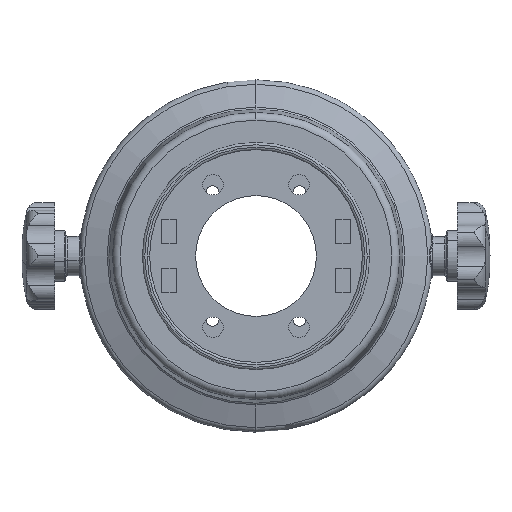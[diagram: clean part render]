
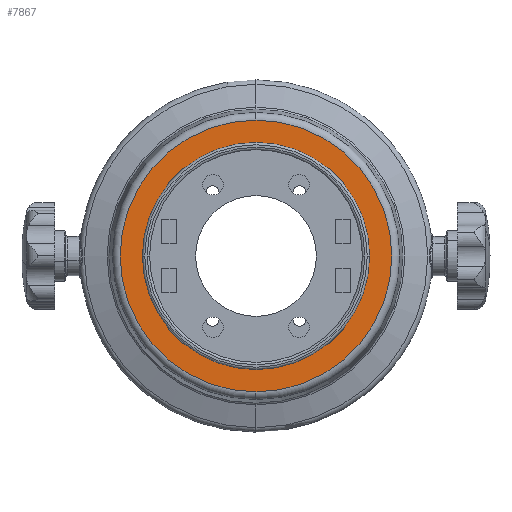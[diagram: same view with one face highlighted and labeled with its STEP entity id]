
A CAD part, front view. The second image highlights one B-rep face of the part: STEP entity #7867.
In plain terms, the highlighted planar face has unit normal (0, -1, 0).
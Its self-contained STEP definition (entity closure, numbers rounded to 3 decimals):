
#566 = DIRECTION ( 'NONE',  ( 0., 0., -1. ) ) ;
#1547 = EDGE_LOOP ( 'NONE', ( #16956, #10199 ) ) ;
#1761 = DIRECTION ( 'NONE',  ( 0., 0., -1. ) ) ;
#2250 = AXIS2_PLACEMENT_3D ( 'NONE', #7359, #10408, #11910 ) ;
#2481 = AXIS2_PLACEMENT_3D ( 'NONE', #13709, #10698, #1761 ) ;
#2764 = FACE_BOUND ( 'NONE', #1547, .T. ) ;
#3005 = ORIENTED_EDGE ( 'NONE', *, *, #10343, .T. ) ;
#3485 = AXIS2_PLACEMENT_3D ( 'NONE', #13707, #18288, #13837 ) ;
#3733 = VERTEX_POINT ( 'NONE', #10051 ) ;
#4670 = DIRECTION ( 'NONE',  ( 0., -1., 0. ) ) ;
#6211 = CARTESIAN_POINT ( 'NONE',  ( 0., -2.75, -56.2 ) ) ;
#7359 = CARTESIAN_POINT ( 'NONE',  ( 0., -2.75, 0. ) ) ;
#7867 = ADVANCED_FACE ( 'NONE', ( #2764, #15592 ), #14894, .T. ) ;
#8226 = VERTEX_POINT ( 'NONE', #14597 ) ;
#9053 = DIRECTION ( 'NONE',  ( 0., -1., 0. ) ) ;
#10051 = CARTESIAN_POINT ( 'NONE',  ( 47., -2.75, 0. ) ) ;
#10199 = ORIENTED_EDGE ( 'NONE', *, *, #15688, .F. ) ;
#10343 = EDGE_CURVE ( 'NONE', #8226, #19038, #12385, .T. ) ;
#10408 = DIRECTION ( 'NONE',  ( 0., -1., 0. ) ) ;
#10698 = DIRECTION ( 'NONE',  ( 0., -1., 0. ) ) ;
#11765 = CARTESIAN_POINT ( 'NONE',  ( -47., -2.75, 0. ) ) ;
#11779 = CIRCLE ( 'NONE', #16424, 47. ) ;
#11910 = DIRECTION ( 'NONE',  ( 0., 0., -1. ) ) ;
#12043 = VERTEX_POINT ( 'NONE', #11765 ) ;
#12180 = CARTESIAN_POINT ( 'NONE',  ( 0., -2.75, 0. ) ) ;
#12385 = CIRCLE ( 'NONE', #16030, 56.2 ) ;
#13454 = ORIENTED_EDGE ( 'NONE', *, *, #16038, .T. ) ;
#13707 = CARTESIAN_POINT ( 'NONE',  ( 0., -2.75, 0. ) ) ;
#13709 = CARTESIAN_POINT ( 'NONE',  ( 0., -2.75, 0. ) ) ;
#13837 = DIRECTION ( 'NONE',  ( 0., 0., -1. ) ) ;
#14597 = CARTESIAN_POINT ( 'NONE',  ( 0., -2.75, 56.2 ) ) ;
#14616 = CIRCLE ( 'NONE', #2481, 47. ) ;
#14657 = CARTESIAN_POINT ( 'NONE',  ( 0., -2.75, 0. ) ) ;
#14894 = PLANE ( 'NONE',  #2250 ) ;
#15034 = DIRECTION ( 'NONE',  ( 0., 0., -1. ) ) ;
#15592 = FACE_OUTER_BOUND ( 'NONE', #15955, .T. ) ;
#15688 = EDGE_CURVE ( 'NONE', #12043, #3733, #14616, .T. ) ;
#15784 = CIRCLE ( 'NONE', #3485, 56.2 ) ;
#15955 = EDGE_LOOP ( 'NONE', ( #13454, #3005 ) ) ;
#16030 = AXIS2_PLACEMENT_3D ( 'NONE', #14657, #4670, #566 ) ;
#16038 = EDGE_CURVE ( 'NONE', #19038, #8226, #15784, .T. ) ;
#16424 = AXIS2_PLACEMENT_3D ( 'NONE', #12180, #9053, #15034 ) ;
#16956 = ORIENTED_EDGE ( 'NONE', *, *, #19036, .F. ) ;
#18288 = DIRECTION ( 'NONE',  ( 0., -1., 0. ) ) ;
#19036 = EDGE_CURVE ( 'NONE', #3733, #12043, #11779, .T. ) ;
#19038 = VERTEX_POINT ( 'NONE', #6211 ) ;
